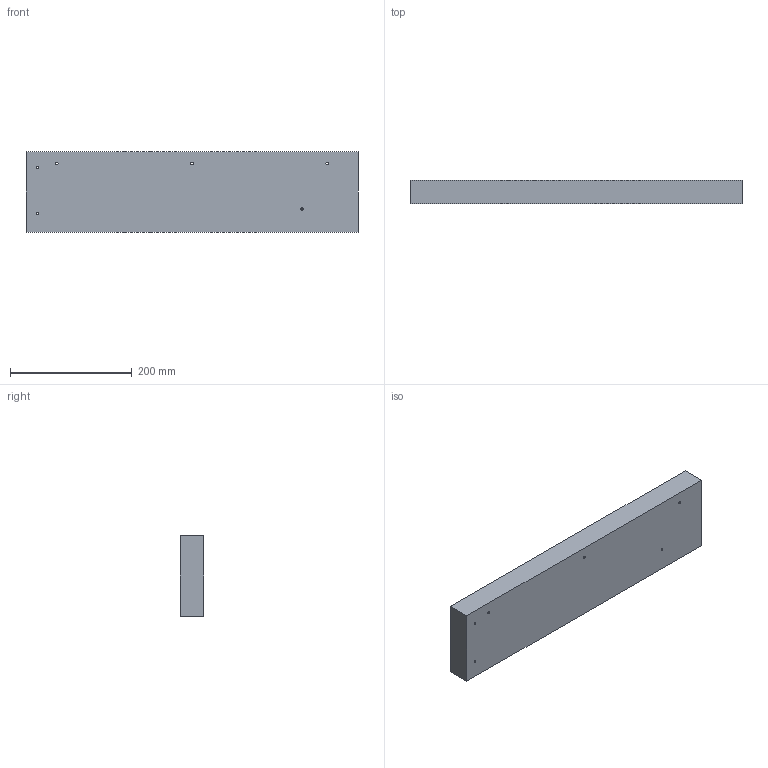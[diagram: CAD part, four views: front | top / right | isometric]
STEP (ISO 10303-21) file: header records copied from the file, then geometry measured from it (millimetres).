
FILE_DESCRIPTION(('FreeCAD Model'),'2;1');
FILE_NAME('/home/jwright/Documents/Mach_30/Shepard_v1.0_CAD/STEP_Files/Shepard_v1.0_Base_Side_TSBa01.step','2012-10-21T23:01:29',('FreeCAD'),('FreeCAD' ),'Open CASCADE STEP processor 6.5','FreeCAD','Unknown');
FILE_SCHEMA(('AUTOMOTIVE_DESIGN_CC2 { 1 2 10303 214 -1 1 5 4 }'));
Length unit declared in the file: millimetre
Products named in the file (1): Cut
Bounding box: 546.1 x 38.1 x 131.76 mm (x, y, z)
Volume: 2738631.6 mm3; surface area: 198286 mm2
Topology: 1 solids, 1 shells, 12 faces, 42 edges, 32 vertices
Faces by surface type: plane 6, cylinder 6
Full cylindrical faces by diameter (mm): 4 x6
Entity records: 1225 total; most frequent: CARTESIAN_POINT 315, DIRECTION 152, ORIENTED_EDGE 84, PCURVE 84, DEFINITIONAL_REPRESENTATION 84, LINE 78, VECTOR 78, EDGE_CURVE 42
